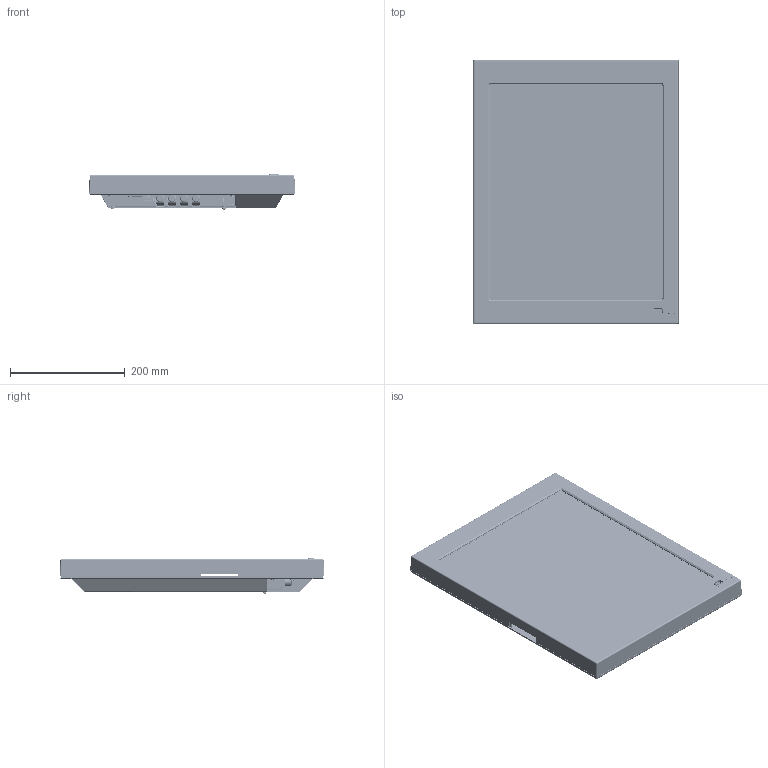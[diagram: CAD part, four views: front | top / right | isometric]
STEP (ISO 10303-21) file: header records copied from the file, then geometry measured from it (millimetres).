
FILE_DESCRIPTION (( 'STEP AP203' ), '1' );
FILE_NAME ('19 Zoll ETV mit Lasal.STEP', '2011-01-21T12:56:14', ( 'Anwender' ), ( 'SIGMATEK GMBH & CO KG' ), 'SwSTEP 2.0', 'SolidWorks 2009', '' );
FILE_SCHEMA (( 'CONFIG_CONTROL_DESIGN' ));
Products named in the file (1): 19 Zoll ETV mit Lasal
Bounding box: 359.66 x 461.63 x 61.44 mm (x, y, z)
Volume: 3093632.1 mm3; surface area: 1738471.6 mm2
Topology: 164 solids, 169 shells, 9295 faces, 22879 edges, 14306 vertices
Faces by surface type: plane 5593, cylinder 2259, cone 797, bspline 350, torus 244, sphere 52
Full cylindrical faces by diameter (mm): 0.2 x2
Entity records: 313899 total; most frequent: CARTESIAN_POINT 95901, ORIENTED_EDGE 45590, DIRECTION 44317, EDGE_CURVE 22795, AXIS2_PLACEMENT_3D 14999, VECTOR 14319, LINE 14319, VERTEX_POINT 14302
